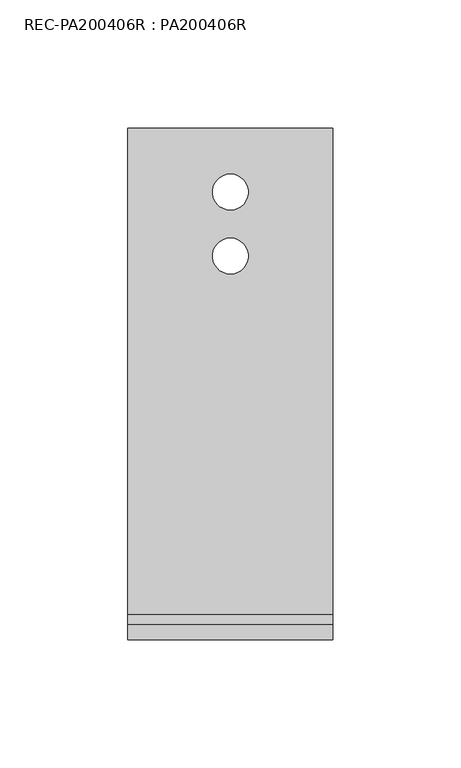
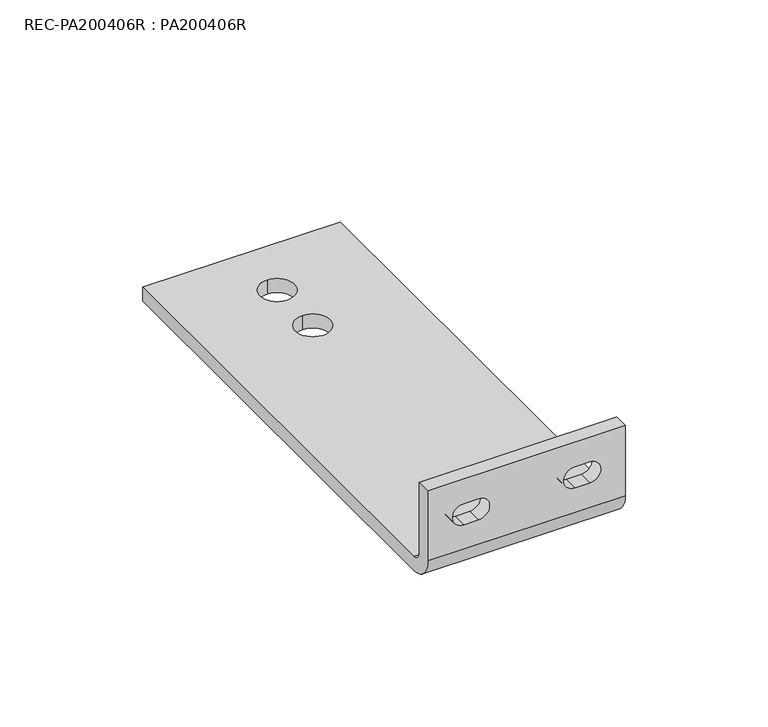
"""IFC4 building model written with IfcOpenShell, lengths in millimetres: fastener geometry, REC-PA200406R : PA200406R."""

from ifc_helpers import new_model, si_unit, frame, origin, place, context, project, spatial, polyline, circle_curve, source, transform, mapped, element, save
from ifc_brep_helpers import plane_surface, cylinder_surface, revolved_surface, advanced_brep


def rec_pa200406r_pa200406r_2a3f9432(model_context):
    return source(origin(), model_context, "Body", "AdvancedBrep", [
        advanced_brep(
        [(-40.0, -190.0, 6.0), (-40.0, 0.0, 6.0), (-40.0, 0.0, 0.0), (-40.0, -190.0, 0.0), (-40.0, -200.0, 10.0), (-40.0, -200.0, 40.0), (-40.0, -194.0, 40.0), (-40.0, -194.0, 10.0), (40.0, -190.0, 6.0), (40.0, -194.0, 10.0), (40.0, -194.0, 40.0), (40.0, -200.0, 40.0), (40.0, -200.0, 10.0), (40.0, -190.0, 0.0), (40.0, 0.0, 0.0), (40.0, 0.0, 6.0), (0.0, -32.0, 6.0), (0.0, -18.0, 6.0), (0.0, -43.0, 6.0), (0.0, -57.0, 6.0), (0.0, -18.0, 0.0), (0.0, -32.0, 0.0), (0.0, -57.0, 0.0), (0.0, -43.0, 0.0), (-25.5, -200.0, 20.5), (-25.5, -200.0, 29.5), (-19.5, -200.0, 29.5), (-19.5, -200.0, 20.5), (19.5, -200.0, 20.5), (19.5, -200.0, 29.5), (25.5, -200.0, 29.5), (25.5, -200.0, 20.5), (-25.5, -194.0, 29.5), (-25.5, -194.0, 20.5), (-19.5, -194.0, 20.5), (-19.5, -194.0, 29.5), (19.5, -194.0, 29.5), (19.5, -194.0, 20.5), (25.5, -194.0, 20.5), (25.5, -194.0, 29.5)],
        [
            (0, 1),
            (1, 2),
            (2, 3),
            (3, 4, circle_curve(frame((-40.0, -190.0, 10.0), z_axis=(-1.0, 0.0, 0.0), x_axis=(0.0, -1.0, 0.0)), 10.0)),
            (4, 5),
            (5, 6),
            (6, 7),
            (7, 0, circle_curve(frame((-40.0, -190.0, 10.0), z_axis=(1.0, 0.0, 0.0), x_axis=(0.0, -1.0, 0.0)), 4.0)),
            (8, 9, circle_curve(frame((40.0, -190.0, 10.0), z_axis=(-1.0, 0.0, 0.0), x_axis=(0.0, -1.0, 0.0)), 4.0)),
            (9, 10),
            (10, 11),
            (11, 12),
            (12, 13, circle_curve(frame((40.0, -190.0, 10.0), z_axis=(1.0, 0.0, 0.0), x_axis=(0.0, -1.0, 0.0)), 10.0)),
            (13, 14),
            (14, 15),
            (15, 8),
            (0, 8),
            (15, 1),
            (16, 17, circle_curve(frame((0.0, -25.0, 6.0), z_axis=(0.0, 0.0, -1.0), x_axis=(0.0, 1.0, 0.0)), 7.0)),
            (17, 16, circle_curve(frame((0.0, -25.0, 6.0), z_axis=(0.0, 0.0, -1.0), x_axis=(0.0, 1.0, 0.0)), 7.0)),
            (18, 19, circle_curve(frame((0.0, -50.0, 6.0), z_axis=(0.0, 0.0, -1.0), x_axis=(0.0, -1.0, 0.0)), 7.0)),
            (19, 18, circle_curve(frame((0.0, -50.0, 6.0), z_axis=(0.0, 0.0, -1.0), x_axis=(0.0, -1.0, 0.0)), 7.0)),
            (14, 2),
            (13, 3),
            (20, 21, circle_curve(frame((0.0, -25.0, 0.0), z_axis=(0.0, 0.0, 1.0), x_axis=(0.0, 1.0, 0.0)), 7.0)),
            (21, 20, circle_curve(frame((0.0, -25.0, 0.0), z_axis=(0.0, 0.0, 1.0), x_axis=(0.0, 1.0, 0.0)), 7.0)),
            (22, 23, circle_curve(frame((0.0, -50.0, 0.0), z_axis=(0.0, 0.0, 1.0), x_axis=(0.0, -1.0, 0.0)), 7.0)),
            (23, 22, circle_curve(frame((0.0, -50.0, 0.0), z_axis=(0.0, 0.0, 1.0), x_axis=(0.0, -1.0, 0.0)), 7.0)),
            (12, 4),
            (11, 5),
            (24, 25, circle_curve(frame((-25.5, -200.0, 25.0), z_axis=(0.0, 1.0, 0.0), x_axis=(0.0, 0.0, 1.0)), 4.5)),
            (25, 26),
            (26, 27, circle_curve(frame((-19.5, -200.0, 25.0), z_axis=(0.0, 1.0, 0.0), x_axis=(0.0, 0.0, 1.0)), 4.5)),
            (27, 24),
            (28, 29, circle_curve(frame((19.5, -200.0, 25.0), z_axis=(0.0, 1.0, 0.0), x_axis=(0.0, 0.0, 1.0)), 4.5)),
            (29, 30),
            (30, 31, circle_curve(frame((25.5, -200.0, 25.0), z_axis=(0.0, 1.0, 0.0), x_axis=(0.0, 0.0, 1.0)), 4.5)),
            (31, 28),
            (10, 6),
            (9, 7),
            (32, 33, circle_curve(frame((-25.5, -194.0, 25.0), z_axis=(0.0, -1.0, 0.0), x_axis=(0.0, 0.0, 1.0)), 4.5)),
            (33, 34),
            (34, 35, circle_curve(frame((-19.5, -194.0, 25.0), z_axis=(0.0, -1.0, 0.0), x_axis=(0.0, 0.0, 1.0)), 4.5)),
            (35, 32),
            (36, 37, circle_curve(frame((19.5, -194.0, 25.0), z_axis=(0.0, -1.0, 0.0), x_axis=(0.0, 0.0, 1.0)), 4.5)),
            (37, 38),
            (38, 39, circle_curve(frame((25.5, -194.0, 25.0), z_axis=(0.0, -1.0, 0.0), x_axis=(0.0, 0.0, 1.0)), 4.5)),
            (39, 36),
            (20, 17),
            (16, 21),
            (22, 19),
            (18, 23),
            (24, 33),
            (32, 25),
            (27, 34),
            (26, 35),
            (28, 37),
            (36, 29),
            (31, 38),
            (30, 39),
        ],
        [
            plane_surface(frame((-40.0, 0.0, 6.0), z_axis=(-1.0, 0.0, 0.0), x_axis=(0.0, 1.0, 0.0))),
            plane_surface(frame((40.0, 0.0, 6.0), z_axis=(1.0, 0.0, 0.0), x_axis=(0.0, -1.0, 0.0))),
            plane_surface(frame((-40.0, -190.0, 6.0), z_axis=(0.0, 0.0, 1.0), x_axis=(1.0, 0.0, 0.0))),
            plane_surface(frame((-40.0, 0.0, 6.0), z_axis=(0.0, 1.0, 0.0), x_axis=(1.0, 0.0, 0.0))),
            plane_surface(frame((-40.0, 0.0, 0.0), z_axis=(0.0, 0.0, -1.0), x_axis=(1.0, 0.0, 0.0))),
            cylinder_surface(frame((40.0, -190.0, 10.0), z_axis=(-1.0, 0.0, 0.0), x_axis=(0.0, -1.0, 0.0)), 10.0),
            plane_surface(frame((-40.0, -200.0, 10.0), z_axis=(0.0, -1.0, 0.0), x_axis=(1.0, 0.0, 0.0))),
            plane_surface(frame((-40.0, -200.0, 40.0), z_axis=(0.0, 0.0, 1.0), x_axis=(1.0, 0.0, 0.0))),
            plane_surface(frame((-40.0, -194.0, 40.0), z_axis=(0.0, 1.0, 0.0), x_axis=(1.0, 0.0, 0.0))),
            revolved_surface(polyline([(40.0, -194.0, 10.0), (-40.0, -194.0, 10.0)]), (40.0, -190.0, 10.0), (1.0, 0.0, 0.0)),
            revolved_surface(polyline([(0.0, -18.0, 0.0), (0.0, -18.0, 6.0)]), (0.0, -25.0, 6.0), (0.0, 0.0, -1.0)),
            revolved_surface(polyline([(0.0, -57.0, 0.0), (0.0, -57.0, 6.0)]), (0.0, -50.0, 126.0), (0.0, 0.0, -1.0)),
            revolved_surface(polyline([(-25.5, -200.0, 29.5), (-25.5, -194.0, 29.5)]), (-25.5, -194.0, 25.0), (0.0, -1.0, 0.0)),
            plane_surface(frame((-25.5, -200.0, 20.5), z_axis=(0.0, 0.0, 1.0), x_axis=(0.0, 1.0, 0.0))),
            revolved_surface(polyline([(-19.5, -200.0, 29.5), (-19.5, -194.0, 29.5)]), (-19.5, -194.0, 25.0), (0.0, -1.0, 0.0)),
            plane_surface(frame((-19.5, -200.0, 29.5), z_axis=(0.0, 0.0, -1.0), x_axis=(0.0, 1.0, 0.0))),
            revolved_surface(polyline([(19.5, -200.0, 29.5), (19.5, -194.0, 29.5)]), (19.5, -194.0, 25.0), (0.0, -1.0, 0.0)),
            plane_surface(frame((19.5, -200.0, 20.5), z_axis=(0.0, 0.0, 1.0), x_axis=(0.0, 1.0, 0.0))),
            revolved_surface(polyline([(25.5, -200.0, 29.5), (25.5, -194.0, 29.5)]), (25.5, -194.0, 25.0), (0.0, -1.0, 0.0)),
            plane_surface(frame((25.5, -200.0, 29.5), z_axis=(0.0, 0.0, -1.0), x_axis=(0.0, 1.0, 0.0))),
        ],
        [
            (0, [[1, 2, 3, 4, 5, 6, 7, 8]]),
            (1, [[9, 10, 11, 12, 13, 14, 15, 16]]),
            (2, [[-1, 17, -16, 18], [19, 20], [21, 22]]),
            (3, [[-2, -18, -15, 23]]),
            (4, [[-3, -23, -14, 24], [25, 26], [27, 28]]),
            (5, [[-4, -24, -13, 29]]),
            (6, [[-5, -29, -12, 30], [31, 32, 33, 34], [35, 36, 37, 38]]),
            (7, [[-6, -30, -11, 39]]),
            (8, [[-7, -39, -10, 40], [41, 42, 43, 44], [45, 46, 47, 48]]),
            (9, [[-8, -40, -9, -17]]),
            (10, [[49, -19, 50, -25]]),
            (10, [[-49, -26, -50, -20]]),
            (11, [[51, -21, 52, -27]]),
            (11, [[-51, -28, -52, -22]]),
            (12, [[53, -41, 54, -31]]),
            (13, [[-53, -34, 55, -42]]),
            (14, [[-55, -33, 56, -43]]),
            (15, [[-54, -44, -56, -32]]),
            (16, [[57, -45, 58, -35]]),
            (17, [[-57, -38, 59, -46]]),
            (18, [[-59, -37, 60, -47]]),
            (19, [[-58, -48, -60, -36]]),
        ],
    ),
    ])


if __name__ == "__main__":
    model = new_model("IFC4")
    model_context = context("Model", 3, world=origin())
    ifc_project = project(units=[si_unit("LENGTHUNIT", "METRE", prefix="MILLI")], contexts=[model_context])
    site = spatial("IfcSite", under=ifc_project)
    building = spatial("IfcBuilding", under=site)
    placement = place(None, origin())
    rec_pa200406r_pa200406r_shape = rec_pa200406r_pa200406r_2a3f9432(model_context)
    element("IfcFastener", 1, ObjectType="REC-PA200406R : PA200406R", at=placement, inside=building, context=model_context, shape_type="MappedRepresentation", body=[
        mapped(rec_pa200406r_pa200406r_shape, transform((0.0, 0.0, 0.0), x_axis=(1.0, 0.0, 0.0), y_axis=(0.0, 1.0, 0.0), z_axis=(0.0, 0.0, 1.0))),
    ])
    save(model, "model.ifc")
